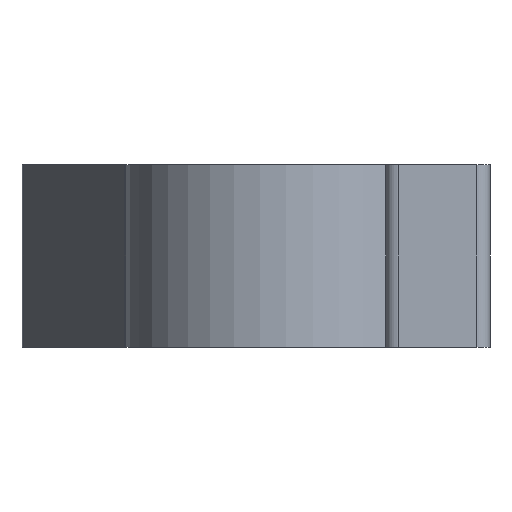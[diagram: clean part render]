
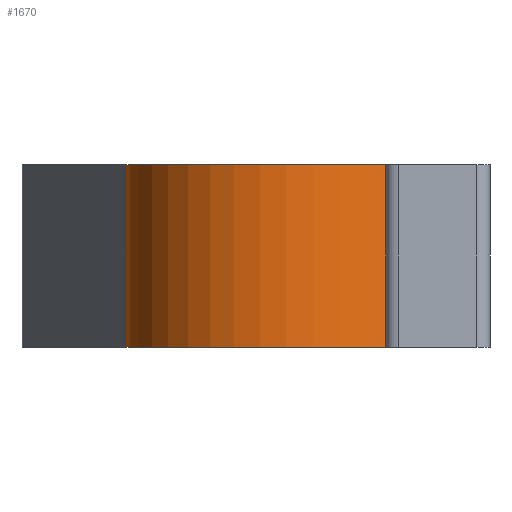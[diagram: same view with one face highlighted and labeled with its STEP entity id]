
A CAD part, left-side view. The second image highlights one B-rep face of the part: STEP entity #1670.
In plain terms, the highlighted cylindrical face has radius 2.5 mm (diameter 5 mm), a partial arc.
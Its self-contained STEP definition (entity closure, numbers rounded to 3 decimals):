
#40 = VERTEX_POINT('',#41);
#41 = CARTESIAN_POINT('',(9.388,-0.507,1.4));
#51 = CYLINDRICAL_SURFACE('',#52,0.25);
#52 = AXIS2_PLACEMENT_3D('',#53,#54,#55);
#53 = CARTESIAN_POINT('',(9.511,-0.724,0.));
#54 = DIRECTION('',(0.,0.,1.));
#55 = DIRECTION('',(-1.,0.,0.));
#63 = PLANE('',#64);
#64 = AXIS2_PLACEMENT_3D('',#65,#66,#67);
#65 = CARTESIAN_POINT('',(10.813,-1.737,1.4));
#66 = DIRECTION('',(0.,0.,1.));
#67 = DIRECTION('',(1.,0.,-0.));
#108 = VERTEX_POINT('',#109);
#109 = CARTESIAN_POINT('',(9.388,-0.507,-1.4));
#124 = PLANE('',#125);
#125 = AXIS2_PLACEMENT_3D('',#126,#127,#128);
#126 = CARTESIAN_POINT('',(10.813,-1.737,-1.4));
#127 = DIRECTION('',(0.,0.,1.));
#128 = DIRECTION('',(1.,0.,-0.));
#140 = EDGE_CURVE('',#108,#40,#141,.T.);
#141 = SURFACE_CURVE('',#142,(#146,#153),.PCURVE_S1.);
#142 = LINE('',#143,#144);
#143 = CARTESIAN_POINT('',(9.388,-0.507,-1.4));
#144 = VECTOR('',#145,1.);
#145 = DIRECTION('',(0.,0.,1.));
#146 = PCURVE('',#51,#147);
#147 = DEFINITIONAL_REPRESENTATION('',(#148),#152);
#148 = LINE('',#149,#150);
#149 = CARTESIAN_POINT('',(5.23,-1.4));
#150 = VECTOR('',#151,1.);
#151 = DIRECTION('',(0.,1.));
#152 = ( GEOMETRIC_REPRESENTATION_CONTEXT(2) 
PARAMETRIC_REPRESENTATION_CONTEXT() REPRESENTATION_CONTEXT('2D SPACE',''
  ) );
#153 = PCURVE('',#154,#159);
#154 = CYLINDRICAL_SURFACE('',#155,2.5);
#155 = AXIS2_PLACEMENT_3D('',#156,#157,#158);
#156 = CARTESIAN_POINT('',(9.2,-3.,0.));
#157 = DIRECTION('',(0.,0.,1.));
#158 = DIRECTION('',(0.075,0.997,-0.));
#159 = DEFINITIONAL_REPRESENTATION('',(#160),#164);
#160 = LINE('',#161,#162);
#161 = CARTESIAN_POINT('',(0.,-1.4));
#162 = VECTOR('',#163,1.);
#163 = DIRECTION('',(0.,1.));
#164 = ( GEOMETRIC_REPRESENTATION_CONTEXT(2) 
PARAMETRIC_REPRESENTATION_CONTEXT() REPRESENTATION_CONTEXT('2D SPACE',''
  ) );
#170 = EDGE_CURVE('',#40,#171,#173,.T.);
#171 = VERTEX_POINT('',#172);
#172 = CARTESIAN_POINT('',(7.2,-4.5,1.4));
#173 = SURFACE_CURVE('',#174,(#179,#186),.PCURVE_S1.);
#174 = CIRCLE('',#175,2.5);
#175 = AXIS2_PLACEMENT_3D('',#176,#177,#178);
#176 = CARTESIAN_POINT('',(9.2,-3.,1.4));
#177 = DIRECTION('',(0.,0.,1.));
#178 = DIRECTION('',(0.075,0.997,-0.));
#179 = PCURVE('',#63,#180);
#180 = DEFINITIONAL_REPRESENTATION('',(#181),#185);
#181 = CIRCLE('',#182,2.5);
#182 = AXIS2_PLACEMENT_2D('',#183,#184);
#183 = CARTESIAN_POINT('',(-1.613,-1.263));
#184 = DIRECTION('',(0.075,0.997));
#185 = ( GEOMETRIC_REPRESENTATION_CONTEXT(2) 
PARAMETRIC_REPRESENTATION_CONTEXT() REPRESENTATION_CONTEXT('2D SPACE',''
  ) );
#186 = PCURVE('',#154,#187);
#187 = DEFINITIONAL_REPRESENTATION('',(#188),#192);
#188 = LINE('',#189,#190);
#189 = CARTESIAN_POINT('',(0.,1.4));
#190 = VECTOR('',#191,1.);
#191 = DIRECTION('',(1.,0.));
#192 = ( GEOMETRIC_REPRESENTATION_CONTEXT(2) 
PARAMETRIC_REPRESENTATION_CONTEXT() REPRESENTATION_CONTEXT('2D SPACE',''
  ) );
#210 = PLANE('',#211);
#211 = AXIS2_PLACEMENT_3D('',#212,#213,#214);
#212 = CARTESIAN_POINT('',(7.2,-4.5,0.));
#213 = DIRECTION('',(0.,1.,0.));
#214 = DIRECTION('',(-1.,0.,0.));
#1552 = EDGE_CURVE('',#1553,#171,#1555,.T.);
#1553 = VERTEX_POINT('',#1554);
#1554 = CARTESIAN_POINT('',(7.2,-4.5,-1.4));
#1555 = SURFACE_CURVE('',#1556,(#1560,#1567),.PCURVE_S1.);
#1556 = LINE('',#1557,#1558);
#1557 = CARTESIAN_POINT('',(7.2,-4.5,-1.4));
#1558 = VECTOR('',#1559,1.);
#1559 = DIRECTION('',(0.,0.,1.));
#1560 = PCURVE('',#210,#1561);
#1561 = DEFINITIONAL_REPRESENTATION('',(#1562),#1566);
#1562 = LINE('',#1563,#1564);
#1563 = CARTESIAN_POINT('',(0.,-1.4));
#1564 = VECTOR('',#1565,1.);
#1565 = DIRECTION('',(0.,1.));
#1566 = ( GEOMETRIC_REPRESENTATION_CONTEXT(2) 
PARAMETRIC_REPRESENTATION_CONTEXT() REPRESENTATION_CONTEXT('2D SPACE',''
  ) );
#1567 = PCURVE('',#154,#1568);
#1568 = DEFINITIONAL_REPRESENTATION('',(#1569),#1573);
#1569 = LINE('',#1570,#1571);
#1570 = CARTESIAN_POINT('',(2.289,-1.4));
#1571 = VECTOR('',#1572,1.);
#1572 = DIRECTION('',(0.,1.));
#1573 = ( GEOMETRIC_REPRESENTATION_CONTEXT(2) 
PARAMETRIC_REPRESENTATION_CONTEXT() REPRESENTATION_CONTEXT('2D SPACE',''
  ) );
#1629 = EDGE_CURVE('',#108,#1553,#1630,.T.);
#1630 = SURFACE_CURVE('',#1631,(#1636,#1643),.PCURVE_S1.);
#1631 = CIRCLE('',#1632,2.5);
#1632 = AXIS2_PLACEMENT_3D('',#1633,#1634,#1635);
#1633 = CARTESIAN_POINT('',(9.2,-3.,-1.4));
#1634 = DIRECTION('',(0.,0.,1.));
#1635 = DIRECTION('',(0.075,0.997,-0.));
#1636 = PCURVE('',#124,#1637);
#1637 = DEFINITIONAL_REPRESENTATION('',(#1638),#1642);
#1638 = CIRCLE('',#1639,2.5);
#1639 = AXIS2_PLACEMENT_2D('',#1640,#1641);
#1640 = CARTESIAN_POINT('',(-1.613,-1.263));
#1641 = DIRECTION('',(0.075,0.997));
#1642 = ( GEOMETRIC_REPRESENTATION_CONTEXT(2) 
PARAMETRIC_REPRESENTATION_CONTEXT() REPRESENTATION_CONTEXT('2D SPACE',''
  ) );
#1643 = PCURVE('',#154,#1644);
#1644 = DEFINITIONAL_REPRESENTATION('',(#1645),#1649);
#1645 = LINE('',#1646,#1647);
#1646 = CARTESIAN_POINT('',(0.,-1.4));
#1647 = VECTOR('',#1648,1.);
#1648 = DIRECTION('',(1.,0.));
#1649 = ( GEOMETRIC_REPRESENTATION_CONTEXT(2) 
PARAMETRIC_REPRESENTATION_CONTEXT() REPRESENTATION_CONTEXT('2D SPACE',''
  ) );
#1670 = ADVANCED_FACE('',(#1671),#154,.T.);
#1671 = FACE_BOUND('',#1672,.T.);
#1672 = EDGE_LOOP('',(#1673,#1674,#1675,#1676));
#1673 = ORIENTED_EDGE('',*,*,#140,.F.);
#1674 = ORIENTED_EDGE('',*,*,#1629,.T.);
#1675 = ORIENTED_EDGE('',*,*,#1552,.T.);
#1676 = ORIENTED_EDGE('',*,*,#170,.F.);
